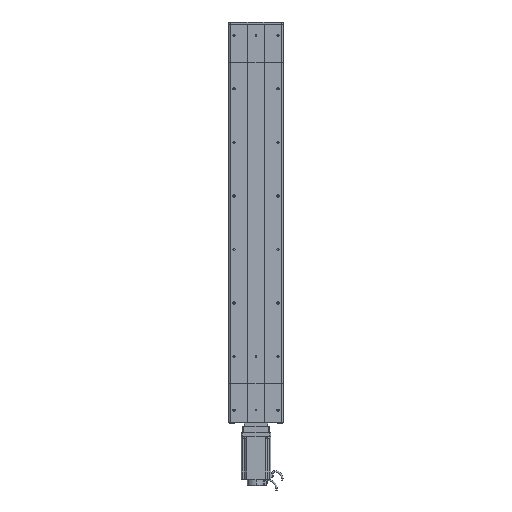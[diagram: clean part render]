
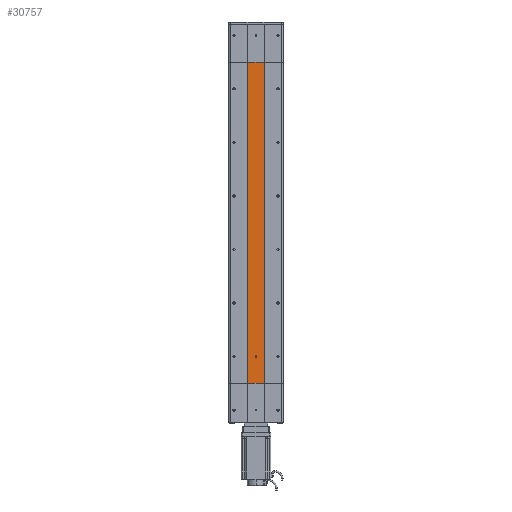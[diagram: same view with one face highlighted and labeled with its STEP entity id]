
A CAD part, front view. The second image highlights one B-rep face of the part: STEP entity #30757.
In plain terms, the highlighted planar face has unit normal (0, -1, 0).
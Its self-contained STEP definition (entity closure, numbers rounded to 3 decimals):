
#23413 = CARTESIAN_POINT ( 'NONE',  ( -30., -32.5, 1200. ) ) ;
#23709 = LINE ( 'NONE', #23813, #23767 ) ;
#23767 = VECTOR ( 'NONE', #23812, 1000. ) ;
#23812 = DIRECTION ( 'NONE',  ( -1., 0., 0. ) ) ;
#23813 = CARTESIAN_POINT ( 'NONE',  ( -30., -32.5, 1200. ) ) ;
#23816 = CARTESIAN_POINT ( 'NONE',  ( 30., -32.5, 1200. ) ) ;
#24111 = LINE ( 'NONE', #24126, #24112 ) ;
#24112 = VECTOR ( 'NONE', #24115, 1000. ) ;
#24115 = DIRECTION ( 'NONE',  ( -1., 0., 0. ) ) ;
#24126 = CARTESIAN_POINT ( 'NONE',  ( -30., -32.5, 0. ) ) ;
#24264 = CARTESIAN_POINT ( 'NONE',  ( -30., -32.5, 0. ) ) ;
#25414 = CARTESIAN_POINT ( 'NONE',  ( 30., -32.5, 0. ) ) ;
#25557 = LINE ( 'NONE', #25844, #25901 ) ;
#25844 = CARTESIAN_POINT ( 'NONE',  ( 30., -32.5, 0. ) ) ;
#25900 = DIRECTION ( 'NONE',  ( 0., 0., 1. ) ) ;
#25901 = VECTOR ( 'NONE', #25900, 1000. ) ;
#26054 = EDGE_CURVE ( 'NONE', #26169, #26164, #49495, .T. ) ;
#26164 = VERTEX_POINT ( 'NONE', #50069 ) ;
#26169 = VERTEX_POINT ( 'NONE', #50056 ) ;
#26567 = LINE ( 'NONE', #26972, #26971 ) ;
#26576 = CIRCLE ( 'NONE', #26646, 3. ) ;
#26578 = FACE_OUTER_BOUND ( 'NONE', #30750, .T. ) ;
#26579 = FACE_BOUND ( 'NONE', #30737, .T. ) ;
#26617 = AXIS2_PLACEMENT_3D ( 'NONE', #26798, #26797, #26795 ) ;
#26641 = DIRECTION ( 'NONE',  ( 0., 0., -1. ) ) ;
#26643 = DIRECTION ( 'NONE',  ( 0., -1., 0. ) ) ;
#26644 = CARTESIAN_POINT ( 'NONE',  ( 0., -32.5, 100. ) ) ;
#26646 = AXIS2_PLACEMENT_3D ( 'NONE', #26644, #26643, #26641 ) ;
#26795 = DIRECTION ( 'NONE',  ( 0., 0., 1. ) ) ;
#26797 = DIRECTION ( 'NONE',  ( 0., 1., 0. ) ) ;
#26798 = CARTESIAN_POINT ( 'NONE',  ( -30., -32.5, 0. ) ) ;
#26969 = DIRECTION ( 'NONE',  ( 0., 0., 1. ) ) ;
#26971 = VECTOR ( 'NONE', #26969, 1000. ) ;
#26972 = CARTESIAN_POINT ( 'NONE',  ( -30., -32.5, 0. ) ) ;
#26974 = PLANE ( 'NONE',  #26617 ) ;
#29929 = VERTEX_POINT ( 'NONE', #23413 ) ;
#30066 = VERTEX_POINT ( 'NONE', #23816 ) ;
#30070 = EDGE_CURVE ( 'NONE', #30066, #29929, #23709, .T. ) ;
#30223 = VERTEX_POINT ( 'NONE', #24264 ) ;
#30239 = EDGE_CURVE ( 'NONE', #30543, #30223, #24111, .T. ) ;
#30543 = VERTEX_POINT ( 'NONE', #25414 ) ;
#30661 = EDGE_CURVE ( 'NONE', #30543, #30066, #25557, .T. ) ;
#30662 = ORIENTED_EDGE ( 'NONE', *, *, #30239, .F. ) ;
#30737 = EDGE_LOOP ( 'NONE', ( #30761, #30758 ) ) ;
#30750 = EDGE_LOOP ( 'NONE', ( #30752, #30762, #30662, #30906 ) ) ;
#30752 = ORIENTED_EDGE ( 'NONE', *, *, #30070, .T. ) ;
#30753 = EDGE_CURVE ( 'NONE', #30223, #29929, #26567, .T. ) ;
#30757 = ADVANCED_FACE ( 'NONE', ( #26579, #26578 ), #26974, .F. ) ;
#30758 = ORIENTED_EDGE ( 'NONE', *, *, #26054, .F. ) ;
#30761 = ORIENTED_EDGE ( 'NONE', *, *, #30763, .F. ) ;
#30762 = ORIENTED_EDGE ( 'NONE', *, *, #30753, .F. ) ;
#30763 = EDGE_CURVE ( 'NONE', #26164, #26169, #26576, .T. ) ;
#30906 = ORIENTED_EDGE ( 'NONE', *, *, #30661, .T. ) ;
#49374 = DIRECTION ( 'NONE',  ( 0., 0., -1. ) ) ;
#49375 = DIRECTION ( 'NONE',  ( 0., -1., 0. ) ) ;
#49376 = CARTESIAN_POINT ( 'NONE',  ( 0., -32.5, 100. ) ) ;
#49489 = AXIS2_PLACEMENT_3D ( 'NONE', #49376, #49375, #49374 ) ;
#49495 = CIRCLE ( 'NONE', #49489, 3. ) ;
#50056 = CARTESIAN_POINT ( 'NONE',  ( 0., -32.5, 103. ) ) ;
#50069 = CARTESIAN_POINT ( 'NONE',  ( 0., -32.5, 97. ) ) ;
